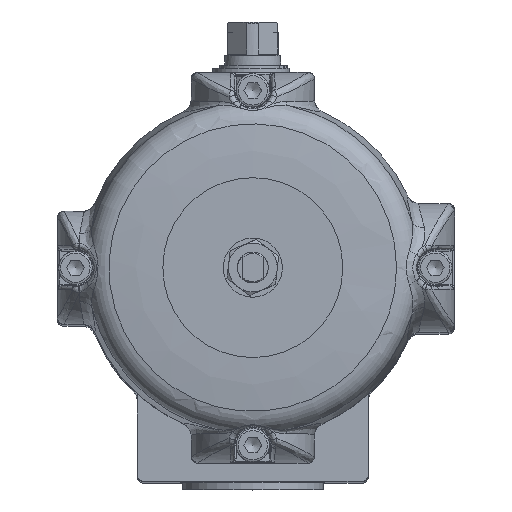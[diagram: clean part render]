
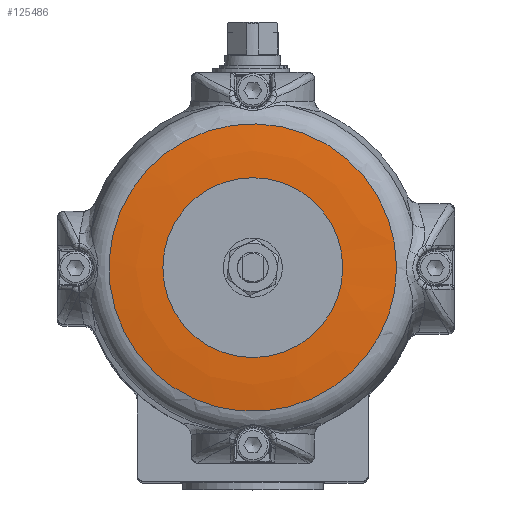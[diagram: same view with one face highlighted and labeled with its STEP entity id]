
A CAD part, top view. The second image highlights one B-rep face of the part: STEP entity #125486.
In plain terms, the highlighted free-form (B-spline) face has degree [2, 2] with [3, 9] control points.
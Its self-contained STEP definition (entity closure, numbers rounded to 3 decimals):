
#109552=CARTESIAN_POINT('',(55.94,0.,263.981));
#109553=VERTEX_POINT('',#109552);
#109554=CARTESIAN_POINT('',(0.,0.,263.981));
#109555=DIRECTION('',(0.0,0.0,-1.0));
#109556=DIRECTION('',(1.0,0.0,0.0));
#109557=AXIS2_PLACEMENT_3D('',#109554,#109555,#109556);
#109558=CIRCLE('',#109557,55.94);
#109559=EDGE_CURVE('',#109553,#109553,#109558,.T.);
#125430=CARTESIAN_POINT('',(35.,0.,265.45));
#125431=VERTEX_POINT('',#125430);
#125432=CARTESIAN_POINT('',(0.,0.,265.45));
#125433=DIRECTION('',(0.0,0.0,-1.0));
#125434=DIRECTION('',(1.0,0.0,0.0));
#125435=AXIS2_PLACEMENT_3D('',#125432,#125433,#125434);
#125436=CIRCLE('',#125435,35.0);
#125437=EDGE_CURVE('',#125431,#125431,#125436,.T.);
#125445=CARTESIAN_POINT('',(0.,14.06,263.981));
#125446=CARTESIAN_POINT('',(0.,35.,266.933));
#125447=CARTESIAN_POINT('',(0.,55.94,263.981));
#125448=CARTESIAN_POINT('',(-14.06,14.06,263.981));
#125449=CARTESIAN_POINT('',(-35.,35.,266.933));
#125450=CARTESIAN_POINT('',(-55.94,55.94,263.981));
#125451=CARTESIAN_POINT('',(-14.06,0.,263.981));
#125452=CARTESIAN_POINT('',(-35.,0.,266.933));
#125453=CARTESIAN_POINT('',(-55.94,0.,263.981));
#125454=CARTESIAN_POINT('',(-14.06,-14.06,263.981));
#125455=CARTESIAN_POINT('',(-35.,-35.,266.933));
#125456=CARTESIAN_POINT('',(-55.94,-55.94,263.981));
#125457=CARTESIAN_POINT('',(0.,-14.06,263.981));
#125458=CARTESIAN_POINT('',(0.,-35.,266.933));
#125459=CARTESIAN_POINT('',(0.,-55.94,263.981));
#125460=CARTESIAN_POINT('',(14.06,-14.06,263.981));
#125461=CARTESIAN_POINT('',(35.,-35.,266.933));
#125462=CARTESIAN_POINT('',(55.94,-55.94,263.981));
#125463=CARTESIAN_POINT('',(14.06,0.,263.981));
#125464=CARTESIAN_POINT('',(35.,0.,266.933));
#125465=CARTESIAN_POINT('',(55.94,0.,263.981));
#125466=CARTESIAN_POINT('',(14.06,14.06,263.981));
#125467=CARTESIAN_POINT('',(35.,35.,266.933));
#125468=CARTESIAN_POINT('',(55.94,55.94,263.981));
#125469=CARTESIAN_POINT('',(0.,14.06,263.981));
#125470=CARTESIAN_POINT('',(0.,35.,266.933));
#125471=CARTESIAN_POINT('',(0.,55.94,263.981));
#125479=(BOUNDED_SURFACE()B_SPLINE_SURFACE(2,2,((#125445,#125448,#125451,#125454,#125457,#125460,#125463,#125466,#125469),(#125446,#125449,#125452,#125455,#125458,#125461,#125464,#125467,#125470),(#125447,#125450,#125453,#125456,#125459,#125462,#125465,#125468,#125471)),.UNSPECIFIED.,.F.,.T.,.U.)B_SPLINE_SURFACE_WITH_KNOTS((3,3),(3,2,2,2,3),(-1.711,-1.431),(0.0,1.571,3.142,4.712,6.283),.UNSPECIFIED.)GEOMETRIC_REPRESENTATION_ITEM()RATIONAL_B_SPLINE_SURFACE(((1.0,0.707,1.0,0.707,1.0,0.707,1.0,0.707,1.0),(0.99,0.7,0.99,0.7,0.99,0.7,0.99,0.7,0.99),(1.0,0.707,1.0,0.707,1.0,0.707,1.0,0.707,1.0)))REPRESENTATION_ITEM('')SURFACE());
#125480=ORIENTED_EDGE('',*,*,#109559,.F.);
#125481=EDGE_LOOP('',(#125480));
#125482=FACE_OUTER_BOUND('',#125481,.T.);
#125483=ORIENTED_EDGE('',*,*,#125437,.T.);
#125484=EDGE_LOOP('',(#125483));
#125485=FACE_BOUND('',#125484,.T.);
#125486=ADVANCED_FACE('',(#125482,#125485),#125479,.T.);
